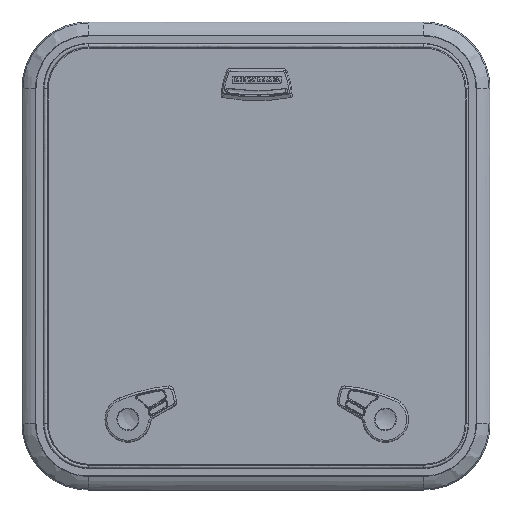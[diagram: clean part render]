
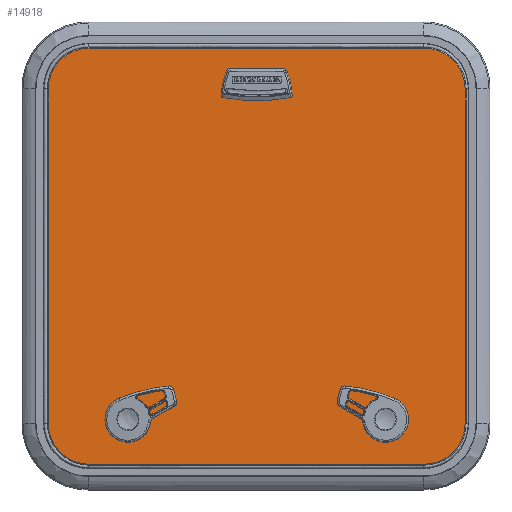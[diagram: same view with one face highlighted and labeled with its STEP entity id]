
A CAD part, top view. The second image highlights one B-rep face of the part: STEP entity #14918.
In plain terms, the highlighted planar face has unit normal (0, 0, 1) as drawn and (0, 1, 0) by its records, which use the part's own axes.
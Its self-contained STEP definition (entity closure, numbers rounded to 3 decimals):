
#13965=CARTESIAN_POINT('',(21.55,8.,-192.));
#13966=DIRECTION('',(0.,-1.,0.));
#13967=DIRECTION('',(0.,0.,-1.));
#13968=AXIS2_PLACEMENT_3D('',#13965,#13966,#13967);
#13970=DIRECTION('',(1.,0.,0.));
#13971=VECTOR('',#13970,43.1);
#13972=CARTESIAN_POINT('',(-21.55,8.,-197.5));
#13973=LINE('',#13972,#13971);
#13974=CARTESIAN_POINT('',(-21.55,8.,-192.));
#13975=DIRECTION('',(0.,-1.,0.));
#13976=DIRECTION('',(0.,0.,1.));
#13977=AXIS2_PLACEMENT_3D('',#13974,#13975,#13976);
#13979=DIRECTION('',(-1.,0.,0.));
#13980=VECTOR('',#13979,43.1);
#13981=CARTESIAN_POINT('',(21.55,8.,-186.5));
#13982=LINE('',#13981,#13980);
#13983=CARTESIAN_POINT('',(-136.198,8.,181.617));
#13984=DIRECTION('',(0.,-1.,0.));
#13985=DIRECTION('',(0.866,0.,-0.5));
#13986=AXIS2_PLACEMENT_3D('',#13983,#13984,#13985);
#13988=DIRECTION('',(0.5,0.,0.866));
#13989=VECTOR('',#13988,10.2);
#13990=CARTESIAN_POINT('',(-136.968,8.,170.283));
#13991=LINE('',#13990,#13989);
#13992=CARTESIAN_POINT('',(-141.298,8.,172.783));
#13993=DIRECTION('',(0.,-1.,0.));
#13994=DIRECTION('',(-0.5,0.,-0.866));
#13995=AXIS2_PLACEMENT_3D('',#13992,#13993,#13994);
#13997=DIRECTION('',(0.866,0.,-0.5));
#13998=VECTOR('',#13997,5.2);
#13999=CARTESIAN_POINT('',(-148.302,8.,171.053));
#14000=LINE('',#13999,#13998);
#14001=CARTESIAN_POINT('',(-145.802,8.,175.383));
#14002=DIRECTION('',(0.,-1.,0.));
#14003=DIRECTION('',(-0.866,0.,0.5));
#14004=AXIS2_PLACEMENT_3D('',#14001,#14002,#14003);
#14006=DIRECTION('',(-0.5,0.,-0.866));
#14007=VECTOR('',#14006,10.2);
#14008=CARTESIAN_POINT('',(-145.032,8.,186.717));
#14009=LINE('',#14008,#14007);
#14010=CARTESIAN_POINT('',(-140.702,8.,184.217));
#14011=DIRECTION('',(0.,-1.,0.));
#14012=DIRECTION('',(0.5,0.,0.866));
#14013=AXIS2_PLACEMENT_3D('',#14010,#14011,#14012);
#14015=DIRECTION('',(-0.866,0.,0.5));
#14016=VECTOR('',#14015,5.2);
#14017=CARTESIAN_POINT('',(-133.698,8.,185.947));
#14018=LINE('',#14017,#14016);
#14019=CARTESIAN_POINT('',(136.198,8.,181.617));
#14020=DIRECTION('',(0.,1.,0.));
#14021=DIRECTION('',(-0.866,0.,-0.5));
#14022=AXIS2_PLACEMENT_3D('',#14019,#14020,#14021);
#14024=DIRECTION('',(0.866,0.,0.5));
#14025=VECTOR('',#14024,5.2);
#14026=CARTESIAN_POINT('',(133.698,8.,185.947));
#14027=LINE('',#14026,#14025);
#14028=CARTESIAN_POINT('',(140.702,8.,184.217));
#14029=DIRECTION('',(0.,1.,0.));
#14030=DIRECTION('',(-0.5,0.,0.866));
#14031=AXIS2_PLACEMENT_3D('',#14028,#14029,#14030);
#14033=DIRECTION('',(0.5,0.,-0.866));
#14034=VECTOR('',#14033,10.2);
#14035=CARTESIAN_POINT('',(145.032,8.,186.717));
#14036=LINE('',#14035,#14034);
#14037=CARTESIAN_POINT('',(145.802,8.,175.383));
#14038=DIRECTION('',(0.,1.,0.));
#14039=DIRECTION('',(0.866,0.,0.5));
#14040=AXIS2_PLACEMENT_3D('',#14037,#14038,#14039);
#14042=DIRECTION('',(-0.866,0.,-0.5));
#14043=VECTOR('',#14042,5.2);
#14044=CARTESIAN_POINT('',(148.302,8.,171.053));
#14045=LINE('',#14044,#14043);
#14046=CARTESIAN_POINT('',(141.298,8.,172.783));
#14047=DIRECTION('',(0.,1.,0.));
#14048=DIRECTION('',(0.5,0.,-0.866));
#14049=AXIS2_PLACEMENT_3D('',#14046,#14047,#14048);
#14051=DIRECTION('',(-0.5,0.,0.866));
#14052=VECTOR('',#14051,10.2);
#14053=CARTESIAN_POINT('',(136.968,8.,170.283));
#14054=LINE('',#14053,#14052);
#14055=DIRECTION('',(-1.,0.,0.));
#14056=VECTOR('',#14055,367.);
#14057=CARTESIAN_POINT('',(183.5,8.,-227.5));
#14058=LINE('',#14057,#14056);
#14059=CARTESIAN_POINT('',(183.5,8.,-183.));
#14060=DIRECTION('',(0.,1.,0.));
#14061=DIRECTION('',(1.,0.,0.));
#14062=AXIS2_PLACEMENT_3D('',#14059,#14060,#14061);
#14064=DIRECTION('',(0.,0.,-1.));
#14065=VECTOR('',#14064,366.);
#14066=CARTESIAN_POINT('',(228.,8.,183.));
#14067=LINE('',#14066,#14065);
#14068=CARTESIAN_POINT('',(183.5,8.,183.));
#14069=DIRECTION('',(0.,1.,0.));
#14070=DIRECTION('',(0.,0.,1.));
#14071=AXIS2_PLACEMENT_3D('',#14068,#14069,#14070);
#14073=DIRECTION('',(1.,0.,0.));
#14074=VECTOR('',#14073,367.);
#14075=CARTESIAN_POINT('',(-183.5,8.,227.5));
#14076=LINE('',#14075,#14074);
#14077=CARTESIAN_POINT('',(-183.5,8.,183.));
#14078=DIRECTION('',(0.,1.,0.));
#14079=DIRECTION('',(-1.,0.,0.));
#14080=AXIS2_PLACEMENT_3D('',#14077,#14078,#14079);
#14082=DIRECTION('',(0.,0.,1.));
#14083=VECTOR('',#14082,366.);
#14084=CARTESIAN_POINT('',(-228.,8.,-183.));
#14085=LINE('',#14084,#14083);
#14086=CARTESIAN_POINT('',(-183.5,8.,-183.));
#14087=DIRECTION('',(0.,1.,0.));
#14088=DIRECTION('',(0.,0.,-1.));
#14089=AXIS2_PLACEMENT_3D('',#14086,#14087,#14088);
#14330=CARTESIAN_POINT('',(21.55,8.,-197.5));
#14331=CARTESIAN_POINT('',(21.55,8.,-186.5));
#14332=VERTEX_POINT('',#14330);
#14333=VERTEX_POINT('',#14331);
#14334=CARTESIAN_POINT('',(-21.55,8.,-186.5));
#14335=VERTEX_POINT('',#14334);
#14336=CARTESIAN_POINT('',(-21.55,8.,-197.5));
#14337=VERTEX_POINT('',#14336);
#14386=CARTESIAN_POINT('',(-131.868,8.,179.117));
#14387=CARTESIAN_POINT('',(-133.698,8.,185.947));
#14388=VERTEX_POINT('',#14386);
#14389=VERTEX_POINT('',#14387);
#14390=CARTESIAN_POINT('',(-138.202,8.,188.547));
#14391=VERTEX_POINT('',#14390);
#14392=CARTESIAN_POINT('',(-145.032,8.,186.717));
#14393=VERTEX_POINT('',#14392);
#14394=CARTESIAN_POINT('',(-150.132,8.,177.883));
#14395=VERTEX_POINT('',#14394);
#14396=CARTESIAN_POINT('',(-148.302,8.,171.053));
#14397=VERTEX_POINT('',#14396);
#14398=CARTESIAN_POINT('',(-143.798,8.,168.453));
#14399=VERTEX_POINT('',#14398);
#14400=CARTESIAN_POINT('',(-136.968,8.,170.283));
#14401=VERTEX_POINT('',#14400);
#14418=CARTESIAN_POINT('',(131.868,8.,179.117));
#14419=CARTESIAN_POINT('',(133.698,8.,185.947));
#14420=VERTEX_POINT('',#14418);
#14421=VERTEX_POINT('',#14419);
#14422=CARTESIAN_POINT('',(138.202,8.,188.547));
#14423=VERTEX_POINT('',#14422);
#14424=CARTESIAN_POINT('',(145.032,8.,186.717));
#14425=VERTEX_POINT('',#14424);
#14426=CARTESIAN_POINT('',(150.132,8.,177.883));
#14427=VERTEX_POINT('',#14426);
#14428=CARTESIAN_POINT('',(148.302,8.,171.053));
#14429=VERTEX_POINT('',#14428);
#14430=CARTESIAN_POINT('',(143.798,8.,168.453));
#14431=VERTEX_POINT('',#14430);
#14432=CARTESIAN_POINT('',(136.968,8.,170.283));
#14433=VERTEX_POINT('',#14432);
#14434=CARTESIAN_POINT('',(183.5,8.,-227.5));
#14435=CARTESIAN_POINT('',(-183.5,8.,-227.5));
#14436=VERTEX_POINT('',#14434);
#14437=VERTEX_POINT('',#14435);
#14438=CARTESIAN_POINT('',(-228.,8.,-183.));
#14439=VERTEX_POINT('',#14438);
#14440=CARTESIAN_POINT('',(-228.,8.,183.));
#14441=VERTEX_POINT('',#14440);
#14442=CARTESIAN_POINT('',(-183.5,8.,227.5));
#14443=VERTEX_POINT('',#14442);
#14444=CARTESIAN_POINT('',(183.5,8.,227.5));
#14445=VERTEX_POINT('',#14444);
#14446=CARTESIAN_POINT('',(228.,8.,183.));
#14447=VERTEX_POINT('',#14446);
#14448=CARTESIAN_POINT('',(228.,8.,-183.));
#14449=VERTEX_POINT('',#14448);
#14850=CARTESIAN_POINT('',(0.,8.,0.));
#14851=DIRECTION('',(0.,1.,0.));
#14852=DIRECTION('',(1.,0.,0.));
#14853=AXIS2_PLACEMENT_3D('',#14850,#14851,#14852);
#14854=PLANE('',#14853);
#14856=ORIENTED_EDGE('',*,*,#14855,.F.);
#14858=ORIENTED_EDGE('',*,*,#14857,.F.);
#14860=ORIENTED_EDGE('',*,*,#14859,.F.);
#14861=ORIENTED_EDGE('',*,*,#14840,.F.);
#14863=ORIENTED_EDGE('',*,*,#14862,.F.);
#14865=ORIENTED_EDGE('',*,*,#14864,.F.);
#14867=ORIENTED_EDGE('',*,*,#14866,.F.);
#14869=ORIENTED_EDGE('',*,*,#14868,.F.);
#14870=EDGE_LOOP('',(#14856,#14858,#14860,#14861,#14863,#14865,#14867,#14869));
#14871=FACE_OUTER_BOUND('',#14870,.F.);
#14873=ORIENTED_EDGE('',*,*,#14872,.F.);
#14875=ORIENTED_EDGE('',*,*,#14874,.F.);
#14877=ORIENTED_EDGE('',*,*,#14876,.F.);
#14879=ORIENTED_EDGE('',*,*,#14878,.F.);
#14880=EDGE_LOOP('',(#14873,#14875,#14877,#14879));
#14881=FACE_BOUND('',#14880,.F.);
#14883=ORIENTED_EDGE('',*,*,#14882,.F.);
#14885=ORIENTED_EDGE('',*,*,#14884,.F.);
#14887=ORIENTED_EDGE('',*,*,#14886,.F.);
#14889=ORIENTED_EDGE('',*,*,#14888,.F.);
#14891=ORIENTED_EDGE('',*,*,#14890,.F.);
#14893=ORIENTED_EDGE('',*,*,#14892,.F.);
#14895=ORIENTED_EDGE('',*,*,#14894,.F.);
#14897=ORIENTED_EDGE('',*,*,#14896,.F.);
#14898=EDGE_LOOP('',(#14883,#14885,#14887,#14889,#14891,#14893,#14895,#14897));
#14899=FACE_BOUND('',#14898,.F.);
#14901=ORIENTED_EDGE('',*,*,#14900,.T.);
#14903=ORIENTED_EDGE('',*,*,#14902,.T.);
#14905=ORIENTED_EDGE('',*,*,#14904,.T.);
#14907=ORIENTED_EDGE('',*,*,#14906,.T.);
#14909=ORIENTED_EDGE('',*,*,#14908,.T.);
#14911=ORIENTED_EDGE('',*,*,#14910,.T.);
#14913=ORIENTED_EDGE('',*,*,#14912,.T.);
#14915=ORIENTED_EDGE('',*,*,#14914,.T.);
#14916=EDGE_LOOP('',(#14901,#14903,#14905,#14907,#14909,#14911,#14913,#14915));
#14917=FACE_BOUND('',#14916,.F.);
#14918=ADVANCED_FACE('',(#14871,#14881,#14899,#14917),#14854,.T.);
#13969=CIRCLE('',#13968,5.5);
#13978=CIRCLE('',#13977,5.5);
#13987=CIRCLE('',#13986,5.);
#13996=CIRCLE('',#13995,5.);
#14005=CIRCLE('',#14004,5.);
#14014=CIRCLE('',#14013,5.);
#14023=CIRCLE('',#14022,5.);
#14032=CIRCLE('',#14031,5.);
#14041=CIRCLE('',#14040,5.);
#14050=CIRCLE('',#14049,5.);
#14063=CIRCLE('',#14062,44.5);
#14072=CIRCLE('',#14071,44.5);
#14081=CIRCLE('',#14080,44.5);
#14090=CIRCLE('',#14089,44.5);
#14840=EDGE_CURVE('',#14445,#14447,#14072,.T.);
#14855=EDGE_CURVE('',#14436,#14437,#14058,.T.);
#14857=EDGE_CURVE('',#14449,#14436,#14063,.T.);
#14859=EDGE_CURVE('',#14447,#14449,#14067,.T.);
#14862=EDGE_CURVE('',#14443,#14445,#14076,.T.);
#14864=EDGE_CURVE('',#14441,#14443,#14081,.T.);
#14866=EDGE_CURVE('',#14439,#14441,#14085,.T.);
#14868=EDGE_CURVE('',#14437,#14439,#14090,.T.);
#14872=EDGE_CURVE('',#14332,#14333,#13969,.T.);
#14874=EDGE_CURVE('',#14337,#14332,#13973,.T.);
#14876=EDGE_CURVE('',#14335,#14337,#13978,.T.);
#14878=EDGE_CURVE('',#14333,#14335,#13982,.T.);
#14882=EDGE_CURVE('',#14388,#14389,#13987,.T.);
#14884=EDGE_CURVE('',#14401,#14388,#13991,.T.);
#14886=EDGE_CURVE('',#14399,#14401,#13996,.T.);
#14888=EDGE_CURVE('',#14397,#14399,#14000,.T.);
#14890=EDGE_CURVE('',#14395,#14397,#14005,.T.);
#14892=EDGE_CURVE('',#14393,#14395,#14009,.T.);
#14894=EDGE_CURVE('',#14391,#14393,#14014,.T.);
#14896=EDGE_CURVE('',#14389,#14391,#14018,.T.);
#14900=EDGE_CURVE('',#14420,#14421,#14023,.T.);
#14902=EDGE_CURVE('',#14421,#14423,#14027,.T.);
#14904=EDGE_CURVE('',#14423,#14425,#14032,.T.);
#14906=EDGE_CURVE('',#14425,#14427,#14036,.T.);
#14908=EDGE_CURVE('',#14427,#14429,#14041,.T.);
#14910=EDGE_CURVE('',#14429,#14431,#14045,.T.);
#14912=EDGE_CURVE('',#14431,#14433,#14050,.T.);
#14914=EDGE_CURVE('',#14433,#14420,#14054,.T.);
